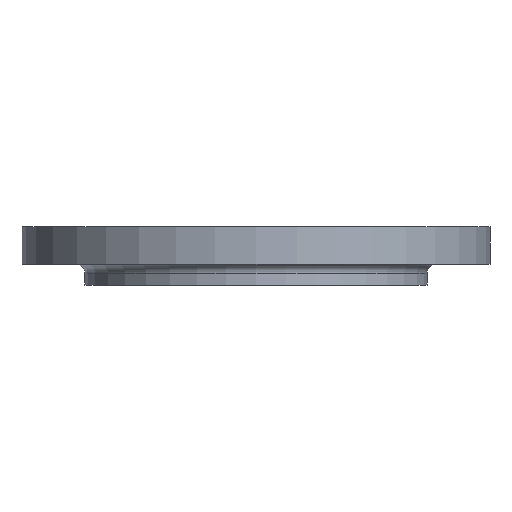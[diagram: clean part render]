
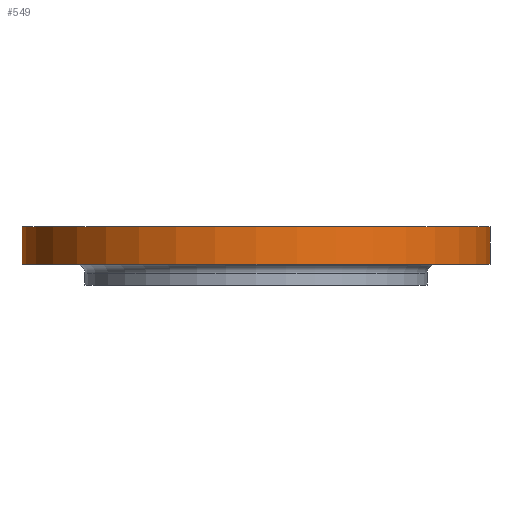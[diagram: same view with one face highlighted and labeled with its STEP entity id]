
A CAD part, front view. The second image highlights one B-rep face of the part: STEP entity #549.
In plain terms, the highlighted cylindrical face has radius 290 mm (diameter 580 mm), a partial arc.
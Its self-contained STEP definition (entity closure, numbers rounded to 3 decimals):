
#23 = EDGE_CURVE ( 'NONE', #89, #1054, #1415, .T. ) ;
#89 = VERTEX_POINT ( 'NONE', #1334 ) ;
#103 = VECTOR ( 'NONE', #1208, 1000. ) ;
#112 = VERTEX_POINT ( 'NONE', #1309 ) ;
#150 = ORIENTED_EDGE ( 'NONE', *, *, #23, .F. ) ;
#151 = ORIENTED_EDGE ( 'NONE', *, *, #293, .T. ) ;
#152 = ORIENTED_EDGE ( 'NONE', *, *, #216, .T. ) ;
#170 = ORIENTED_EDGE ( 'NONE', *, *, #796, .F. ) ;
#216 = EDGE_CURVE ( 'NONE', #112, #288, #1210, .T. ) ;
#266 = EDGE_LOOP ( 'NONE', ( #150, #151, #152, #170 ) ) ;
#288 = VERTEX_POINT ( 'NONE', #1152 ) ;
#291 = CIRCLE ( 'NONE', #857, 290. ) ;
#293 = EDGE_CURVE ( 'NONE', #89, #112, #613, .T. ) ;
#308 = AXIS2_PLACEMENT_3D ( 'NONE', #900, #898, #897 ) ;
#549 = ADVANCED_FACE ( 'NONE', ( #904 ), #903, .T. ) ;
#613 = CIRCLE ( 'NONE', #614, 290. ) ;
#614 = AXIS2_PLACEMENT_3D ( 'NONE', #1129, #1128, #1127 ) ;
#729 = CARTESIAN_POINT ( 'NONE',  ( -290., 0., 0. ) ) ;
#796 = EDGE_CURVE ( 'NONE', #1054, #288, #291, .T. ) ;
#797 = DIRECTION ( 'NONE',  ( 1., 0., 0. ) ) ;
#798 = DIRECTION ( 'NONE',  ( 0., 0., 1. ) ) ;
#799 = CARTESIAN_POINT ( 'NONE',  ( 0., 0., 0. ) ) ;
#857 = AXIS2_PLACEMENT_3D ( 'NONE', #799, #798, #797 ) ;
#897 = DIRECTION ( 'NONE',  ( 1., 0., 0. ) ) ;
#898 = DIRECTION ( 'NONE',  ( 0., 0., 1. ) ) ;
#900 = CARTESIAN_POINT ( 'NONE',  ( 0., 0., -135. ) ) ;
#902 = VECTOR ( 'NONE', #1413, 1000. ) ;
#903 = CYLINDRICAL_SURFACE ( 'NONE', #308, 290. ) ;
#904 = FACE_OUTER_BOUND ( 'NONE', #266, .T. ) ;
#1054 = VERTEX_POINT ( 'NONE', #729 ) ;
#1127 = DIRECTION ( 'NONE',  ( 1., 0., 0. ) ) ;
#1128 = DIRECTION ( 'NONE',  ( 0., 0., 1. ) ) ;
#1129 = CARTESIAN_POINT ( 'NONE',  ( 0., 0., -46. ) ) ;
#1152 = CARTESIAN_POINT ( 'NONE',  ( 290., 0., 0. ) ) ;
#1208 = DIRECTION ( 'NONE',  ( 0., 0., 1. ) ) ;
#1209 = CARTESIAN_POINT ( 'NONE',  ( 290., 0., -135. ) ) ;
#1210 = LINE ( 'NONE', #1209, #103 ) ;
#1309 = CARTESIAN_POINT ( 'NONE',  ( 290., 0., -46. ) ) ;
#1334 = CARTESIAN_POINT ( 'NONE',  ( -290., 0., -46. ) ) ;
#1413 = DIRECTION ( 'NONE',  ( 0., 0., 1. ) ) ;
#1414 = CARTESIAN_POINT ( 'NONE',  ( -290., 0., -135. ) ) ;
#1415 = LINE ( 'NONE', #1414, #902 ) ;
